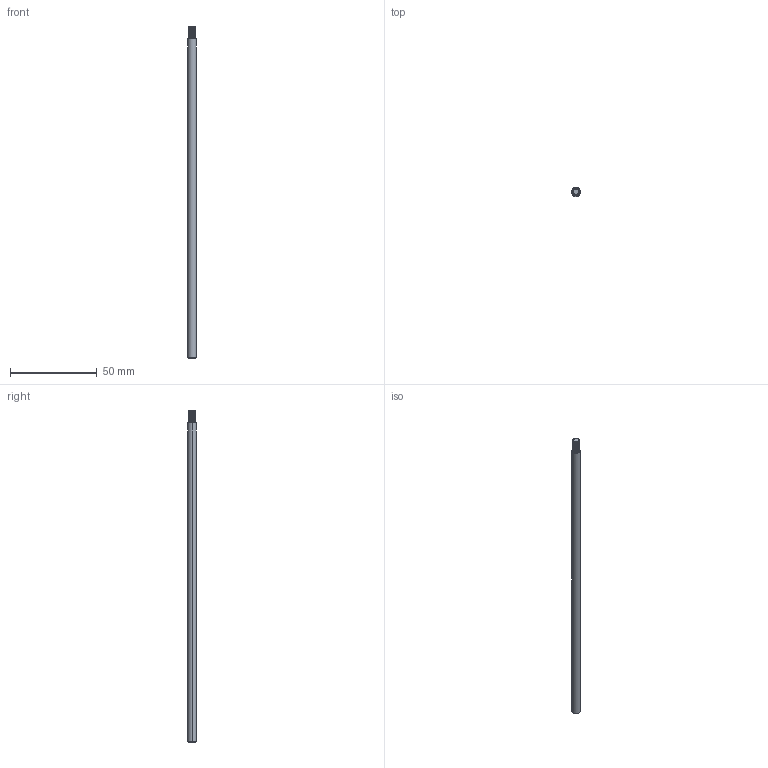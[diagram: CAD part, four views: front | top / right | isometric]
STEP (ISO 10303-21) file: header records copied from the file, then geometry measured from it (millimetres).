
FILE_DESCRIPTION (( 'STEP AP214' ), '1' );
FILE_NAME ('P-00011B - Auger Coupler Shaft - OD5mm - v2.1.6_Auger Rod 5.5mm Threaded.STEP', '2026-06-12T21:51:00', ( '' ), ( '' ), 'SwSTEP 2.0', 'SolidWorks 2023', '' );
FILE_SCHEMA (( 'AUTOMOTIVE_DESIGN' ));
Length unit declared in the file: inch
Products named in the file (1): P-00011B - Auger Coupler Shaft - OD5mm - v2.1.6_Auger Rod 5.5mm Threaded
Bounding box: 5 x 5 x 191.75 mm (x, y, z)
Volume: 3602.6 mm3; surface area: 3168.9 mm2
Topology: 1 solids, 1 shells, 36 faces, 92 edges, 58 vertices
Faces by surface type: cylinder 24, cone 4, plane 4, bspline 4
Entity records: 3638 total; most frequent: CARTESIAN_POINT 2881, ORIENTED_EDGE 180, DIRECTION 126, EDGE_CURVE 90, VERTEX_POINT 58, AXIS2_PLACEMENT_3D 47, EDGE_LOOP 38, FACE_OUTER_BOUND 36
